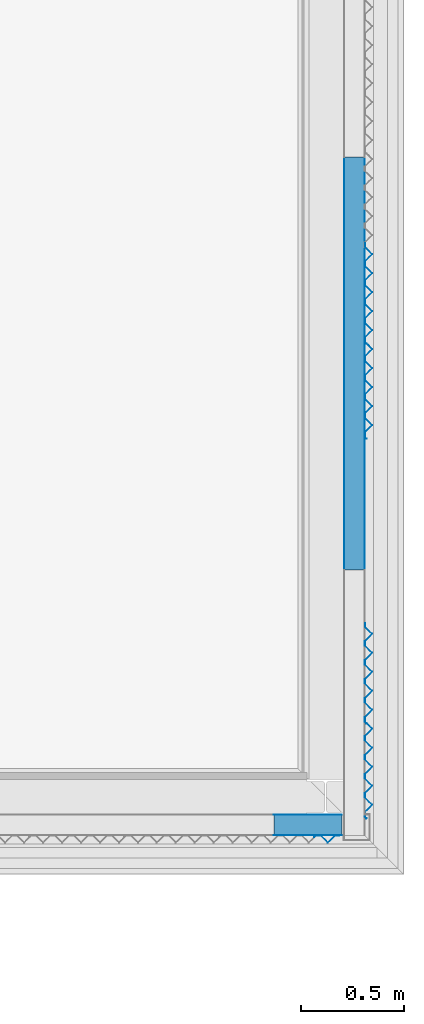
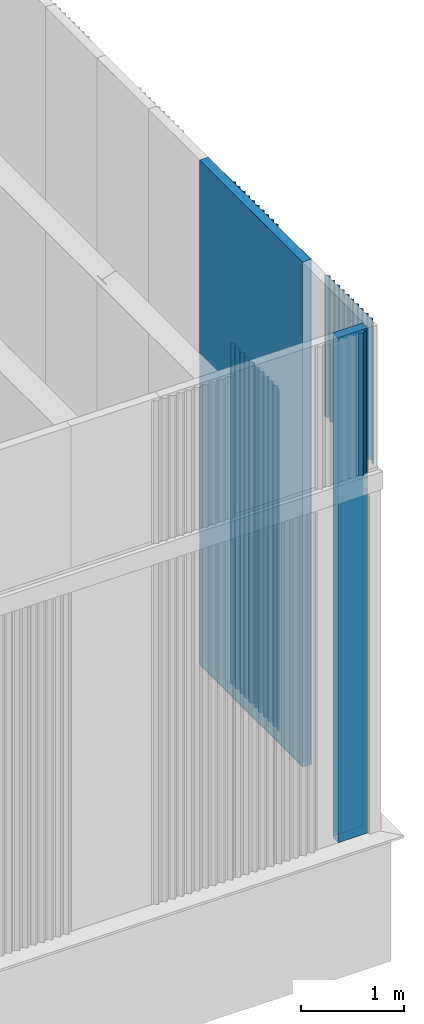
# One storey, part 102 of 338: 13 building element parts, 6 elements without a shape of their own.
"""IFC2X3 building model written with IfcOpenShell, lengths in millimetres."""

from ifc_helpers import new_model, entity, si_unit, converted_unit, derived_unit, money_unit, direction, frame, origin_with_axes, place, context, subcontext, project, spatial, faceted_brep, material, type_object, element, aggregate, save


model = new_model("IFC2X3")

# Units and contexts
model_context = context("Model", 3, precision=0.01, world=origin_with_axes(), true_north=direction((0.0, 1.0)))
plan_context = context("Plan", 3, precision=0.01, world=origin_with_axes(), true_north=direction((0.0, 1.0)))
body_context = subcontext(model_context, "Body", "Model", "MODEL_VIEW")
ifc_project = project(units=[si_unit("LENGTHUNIT", "METRE", prefix="MILLI"), si_unit("AREAUNIT", "SQUARE_METRE"), si_unit("VOLUMEUNIT", "CUBIC_METRE"), converted_unit("PLANEANGLEUNIT", "DEGREE", entity("IfcPlaneAngleMeasure", 0.0174532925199), si_unit("PLANEANGLEUNIT", "RADIAN"), dimensions=[0, 0, 0, 0, 0, 0, 0]), money_unit("EUR"), converted_unit("TIMEUNIT", "Year", entity("IfcTimeMeasure", 31556926.0), si_unit("TIMEUNIT", "SECOND"), dimensions=[0, 0, 1, 0, 0, 0, 0]), si_unit("MASSUNIT", "GRAM", prefix="KILO"), si_unit("THERMODYNAMICTEMPERATUREUNIT", "DEGREE_CELSIUS"), si_unit("LUMINOUSINTENSITYUNIT", "LUMEN"), si_unit("ENERGYUNIT", "JOULE", prefix="MEGA"), derived_unit("THERMALCONDUCTANCEUNIT", [(si_unit("POWERUNIT", "WATT"), 1), (si_unit("LENGTHUNIT", "METRE"), -1), (si_unit("THERMODYNAMICTEMPERATUREUNIT", "KELVIN"), -1)]), derived_unit("SPECIFICHEATCAPACITYUNIT", [(si_unit("ENERGYUNIT", "JOULE"), 1), (si_unit("MASSUNIT", "GRAM", prefix="KILO"), -1), (si_unit("THERMODYNAMICTEMPERATUREUNIT", "KELVIN"), -1)]), derived_unit("MASSDENSITYUNIT", [(si_unit("MASSUNIT", "GRAM", prefix="KILO"), 1), (si_unit("VOLUMEUNIT", "CUBIC_METRE"), -1)])], contexts=[model_context, plan_context])

# Site, building, storey
site_placement = place(None, origin_with_axes())
site = spatial("IfcSite", under=ifc_project, at=site_placement, Name="Fortuinstraat Woensdrecht", CompositionType="ELEMENT")
building_placement = place(site_placement, origin_with_axes())
building = spatial("IfcBuilding", under=site, at=building_placement, Name="IKC Fortuna", CompositionType="ELEMENT")
storey_placement = place(building_placement, origin_with_axes())
storey = spatial("IfcBuildingStorey", under=building, at=storey_placement, Name="00 begane grond", CompositionType="ELEMENT", Elevation=0.0)

# Wall, building element parts
wall_type = type_object("IfcWallType", Name="21 sandwich 100", PredefinedType="NOTDEFINED")
wall_1_placement = place(storey_placement, frame((59433.4270571, 24181.3126832, 1000.0), z_axis=(0.0, 0.0, 1.0), x_axis=(0.0, -1.0, 0.0)))
wall_1 = element("IfcWall", 1, at=wall_1_placement, inside=storey, type_object=wall_type, Name="21_Wand_sandwichplaat")
ifc_material_1 = material(Name="Metaal - Aluminium")
building_element_part_1_placement = place(wall_1_placement, origin_with_axes())
building_element_part_1 = element("IfcBuildingElementPart", 2, at=building_element_part_1_placement, material=ifc_material_1, Name="Metaal - Aluminium", context=body_context, shape_type="Brep", body=[
    faceted_brep([(0.0, 99.0, 6000.0), (2000.0, 99.0, 6000.0), (2000.0, 100.0, 6000.0), (0.0, 100.0, 6000.0), (0.0, 99.0, 0.0), (2000.0, 99.0, 0.0), (2000.0, 100.0, 0.0), (0.0, 100.0, 0.0)], [[[0, 1, 2, 3]], [[4, 5, 1, 0]], [[2, 1, 5, 6]], [[3, 2, 6, 7]], [[4, 0, 3, 7]], [[7, 6, 5, 4]]]),
])
ifc_material_2 = material(Name="Isolatie - Kunststof hard")
building_element_part_2_placement = place(wall_1_placement, origin_with_axes())
building_element_part_2 = element("IfcBuildingElementPart", 3, at=building_element_part_2_placement, material=ifc_material_2, Name="Isolatie - Kunststof hard", context=body_context, shape_type="Brep", body=[
    faceted_brep([(2000.0, 0.999999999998, 6000.0), (2000.0, 99.0, 6000.0), (0.0, 99.0, 6000.0), (0.0, 0.999999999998, 6000.0), (2000.0, 0.999999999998, 0.0), (2000.0, 99.0, 0.0), (0.0, 99.0, 0.0), (0.0, 0.999999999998, 0.0)], [[[0, 1, 2, 3]], [[0, 4, 5, 1]], [[1, 5, 6, 2]], [[3, 2, 6, 7]], [[4, 0, 3, 7]], [[5, 4, 7, 6]]]),
])
building_element_part_3_placement = place(wall_1_placement, origin_with_axes())
building_element_part_3 = element("IfcBuildingElementPart", 4, at=building_element_part_3_placement, material=ifc_material_1, Name="Metaal - Aluminium", context=body_context, shape_type="Brep", body=[
    faceted_brep([(2000.0, 0.0, 6000.0), (0.0, 0.0, 6000.0), (0.0, 6.8709482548e-08, 18.9263474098), (2000.0, 6.34798880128e-08, 18.9263474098), (2000.0, 0.999999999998, 6000.0), (0.0, 0.999999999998, 6000.0), (0.0, 0.999999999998, 18.9261694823), (2000.0, 0.999999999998, 18.9261694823)], [[[0, 1, 2, 3]], [[1, 0, 4, 5]], [[2, 1, 5, 6]], [[3, 2, 6, 7]], [[0, 3, 7, 4]], [[5, 4, 7, 6]]]),
])
aggregate(wall_1, [building_element_part_1, building_element_part_2, building_element_part_3])

wall_2_placement = place(storey_placement, frame((59422.4270571, 20896.2966283, 1000.0), z_axis=(0.0, 0.0, 1.0), x_axis=(-1.0, 0.0, 0.0)))
wall_2 = element("IfcWall", 5, at=wall_2_placement, inside=storey, type_object=wall_type, Name="21_Wand_sandwichplaat")
building_element_part_4_placement = place(wall_2_placement, origin_with_axes())
building_element_part_4 = element("IfcBuildingElementPart", 6, at=building_element_part_4_placement, material=ifc_material_1, Name="Metaal - Aluminium", context=body_context, shape_type="Brep", body=[
    faceted_brep([(0.0, -1.0, 6000.0), (329.013877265, -1.0, 6000.0), (329.013877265, 0.0, 6000.0), (0.0, 0.0, 6000.0), (0.0, -1.0, 0.0), (329.013877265, -1.0, 0.0), (329.013877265, 0.0, 0.0), (0.0, 0.0, 0.0)], [[[0, 1, 2, 3]], [[4, 5, 1, 0]], [[2, 1, 5, 6]], [[3, 2, 6, 7]], [[4, 0, 3, 7]], [[7, 6, 5, 4]]]),
])
building_element_part_5_placement = place(wall_2_placement, origin_with_axes())
building_element_part_5 = element("IfcBuildingElementPart", 7, at=building_element_part_5_placement, material=ifc_material_2, Name="Isolatie - Kunststof hard", context=body_context, shape_type="Brep", body=[
    faceted_brep([(329.013877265, -99.0, 6000.0), (329.013877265, -1.0, 6000.0), (0.0, -1.0, 6000.0), (0.0, -99.0, 6000.0), (329.013877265, -99.0, 0.0), (329.013877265, -1.0, 0.0), (0.0, -1.0, 0.0), (0.0, -99.0, 0.0)], [[[0, 1, 2, 3]], [[0, 4, 5, 1]], [[1, 5, 6, 2]], [[3, 2, 6, 7]], [[4, 0, 3, 7]], [[5, 4, 7, 6]]]),
])
building_element_part_6_placement = place(wall_2_placement, origin_with_axes())
building_element_part_6 = element("IfcBuildingElementPart", 8, at=building_element_part_6_placement, material=ifc_material_1, Name="Metaal - Aluminium", context=body_context, shape_type="Brep", body=[
    faceted_brep([(329.013877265, -99.0, 6000.0), (329.013877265, -99.000000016, 18.9261694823), (0.0, -99.000000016, 18.9261694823), (0.0, -99.0, 6000.0), (329.013877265, -100.0, 18.9263474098), (329.013877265, -100.0, 6000.0), (0.0, -100.0, 18.9263474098), (0.0, -100.0, 6000.0)], [[[0, 1, 2, 3]], [[4, 1, 0, 5]], [[1, 4, 6, 2]], [[3, 2, 6, 7]], [[5, 0, 3, 7]], [[4, 5, 7, 6]]]),
])
aggregate(wall_2, [building_element_part_4, building_element_part_5, building_element_part_6])

# Proxy, building element parts
building_element_proxy_type_1 = type_object("IfcBuildingElementProxyType", Name="21 Sandwich custom pyramid 946 x 37", PredefinedType="NOTDEFINED")
proxy_1_placement = place(storey_placement, frame((59533.4270571, 23763.6060069, 1000.0), z_axis=(0.0, 0.0, 1.0), x_axis=(0.0, -1.0, 0.0)))
proxy_1 = element("IfcBuildingElementProxy", 9, at=proxy_1_placement, inside=storey, type_object=building_element_proxy_type_1, Name="41_Generieke bekleding & afwerking buiten_sandwich custom pyramid")
building_element_part_7_placement = place(proxy_1_placement, origin_with_axes())
building_element_part_7 = element("IfcBuildingElementPart", 10, at=building_element_part_7_placement, material=ifc_material_1, Name="Metaal - Aluminium", context=body_context, shape_type="Brep", body=[
    faceted_brep([(0.0, 2.39999686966, 0.0), (0.0, 1.20000548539, 0.0), (0.0, 1.20000548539, 4060.85690076), (0.0, 2.39999686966, 4060.85690076), (16.7470988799, 2.39999686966, 0.0), (52.0000026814, 36.6736482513, 0.0), (88.487191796, 1.20000548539, 0.0), (107.51282048, 1.20000548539, 0.0), (143.999995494, 36.6736482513, 0.0), (180.487184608, 1.20000548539, 0.0), (199.512813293, 1.20000548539, 0.0), (236.000002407, 36.6736482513, 0.0), (272.487191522, 1.20000548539, 0.0), (291.512820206, 1.20000548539, 0.0), (327.99999522, 36.6736482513, 0.0), (364.487184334, 1.20000548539, 0.0), (383.512813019, 1.20000548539, 0.0), (420.000002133, 36.6736482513, 0.0), (456.487191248, 1.20000548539, 0.0), (460.000006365, 1.20000548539, 0.0), (477.23428491, 1.20000548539, 0.0), (485.472879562, 9.20975302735, 0.0), (486.309372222, 8.34935896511, 0.0), (477.721464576, 0.0, 0.0), (455.999997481, 0.0, 0.0), (420.000002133, 35.0000001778, 0.0), (384.000006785, 0.0, 0.0), (364.000004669, 0.0, 0.0), (327.99999522, 35.0000001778, 0.0), (291.999999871, 0.0, 0.0), (271.999997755, 0.0, 0.0), (236.000002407, 35.0000001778, 0.0), (199.999992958, 0.0, 0.0), (180.000004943, 0.0, 0.0), (143.999995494, 35.0000001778, 0.0), (108.000000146, 0.0, 0.0), (87.9999980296, 0.0, 0.0), (52.0000026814, 35.0000001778, 0.0), (17.2342926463, 1.20000548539, 0.0), (17.2342926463, 1.20000548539, 4060.85690076), (52.0000026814, 35.0000001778, 4060.85690076), (87.9999980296, 0.0, 4060.85690076), (108.000000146, 0.0, 4060.85690076), (143.999995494, 35.0000001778, 4060.85690076), (180.000004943, 0.0, 4060.85690076), (199.999992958, 0.0, 4060.85690076), (236.000002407, 35.0000001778, 4060.85690076), (271.999997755, 0.0, 4060.85690076), (291.999999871, 0.0, 4060.85690076), (327.99999522, 35.0000001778, 4060.85690076), (364.000004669, 0.0, 4060.85690076), (384.000006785, 0.0, 4060.85690076), (420.000002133, 35.0000001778, 4060.85690076), (455.999997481, 0.0, 4060.85690076), (477.721464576, 0.0, 4060.85690076), (486.309372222, 8.34935896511, 4060.85690076), (485.472879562, 9.20975302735, 4060.85690076), (477.23428491, 1.20000548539, 4060.85690076), (460.000006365, 1.20000548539, 4060.85690076), (456.487191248, 1.20000548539, 4060.85690076), (420.000002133, 36.6736482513, 4060.85690076), (383.512813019, 1.20000548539, 4060.85690076), (364.487184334, 1.20000548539, 4060.85690076), (327.99999522, 36.6736482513, 4060.85690076), (291.512820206, 1.20000548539, 4060.85690076), (272.487191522, 1.20000548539, 4060.85690076), (236.000002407, 36.6736482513, 4060.85690076), (199.512813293, 1.20000548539, 4060.85690076), (180.487184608, 1.20000548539, 4060.85690076), (143.999995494, 36.6736482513, 4060.85690076), (107.51282048, 1.20000548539, 4060.85690076), (88.487191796, 1.20000548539, 4060.85690076), (52.0000026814, 36.6736482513, 4060.85690076), (16.7470988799, 2.39999686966, 4060.85690076)], [[[0, 1, 2, 3]], [[0, 4, 5, 6, 7, 8, 9, 10, 11, 12, 13, 14, 15, 16, 17, 18, 19, 20, 21, 22, 23, 24, 25, 26, 27, 28, 29, 30, 31, 32, 33, 34, 35, 36, 37, 38, 1]], [[1, 38, 39, 2]], [[3, 2, 39, 40, 41, 42, 43, 44, 45, 46, 47, 48, 49, 50, 51, 52, 53, 54, 55, 56, 57, 58, 59, 60, 61, 62, 63, 64, 65, 66, 67, 68, 69, 70, 71, 72, 73]], [[4, 0, 3, 73]], [[5, 4, 73, 72]], [[6, 5, 72, 71]], [[7, 6, 71, 70]], [[8, 7, 70, 69]], [[9, 8, 69, 68]], [[10, 9, 68, 67]], [[11, 10, 67, 66]], [[12, 11, 66, 65]], [[13, 12, 65, 64]], [[14, 13, 64, 63]], [[15, 14, 63, 62]], [[16, 15, 62, 61]], [[17, 16, 61, 60]], [[18, 17, 60, 59]], [[19, 18, 59, 58]], [[20, 19, 58, 57]], [[21, 20, 57, 56]], [[22, 21, 56, 55]], [[23, 22, 55, 54]], [[24, 23, 54, 53]], [[25, 24, 53, 52]], [[26, 25, 52, 51]], [[27, 26, 51, 50]], [[28, 27, 50, 49]], [[29, 28, 49, 48]], [[30, 29, 48, 47]], [[31, 30, 47, 46]], [[32, 31, 46, 45]], [[33, 32, 45, 44]], [[34, 33, 44, 43]], [[35, 34, 43, 42]], [[36, 35, 42, 41]], [[37, 36, 41, 40]], [[38, 37, 40, 39]]]),
])
building_element_part_8_placement = place(proxy_1_placement, origin_with_axes())
building_element_part_8 = element("IfcBuildingElementPart", 11, at=building_element_part_8_placement, material=ifc_material_1, Name="Metaal - Aluminium", context=body_context, shape_type="Brep", body=[
    faceted_brep([(460.0, 1.2, 0.0), (477.234285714, 1.2, 0.0), (477.234285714, 1.2, 4060.85690076), (460.0, 1.2, 4060.85690076), (460.0, 2.4, 0.0), (476.747100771, 2.4, 0.0), (512.0, 36.6736520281, 0.0), (548.487184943, 1.2, 0.0), (567.512815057, 1.2, 0.0), (604.0, 36.6736520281, 0.0), (640.487184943, 1.2, 0.0), (659.512815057, 1.2, 0.0), (696.0, 36.6736520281, 0.0), (732.487184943, 1.2, 0.0), (751.512815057, 1.2, 0.0), (788.0, 36.6736520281, 0.0), (824.487184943, 1.2, 0.0), (843.512815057, 1.2, 0.0), (880.0, 36.6736520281, 0.0), (916.487184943, 1.2, 0.0), (937.234285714, 1.2, 0.0), (945.472884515, 9.20974883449, 0.0), (946.309378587, 8.34935493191, 0.0), (937.721470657, 0.0, 0.0), (916.0, 0.0, 0.0), (880.0, 35.0, 0.0), (844.0, 0.0, 0.0), (824.0, 0.0, 0.0), (788.0, 35.0, 0.0), (752.0, 0.0, 0.0), (732.0, 0.0, 0.0), (696.0, 35.0, 0.0), (660.0, 0.0, 0.0), (640.0, 0.0, 0.0), (604.0, 35.0, 0.0), (568.0, 0.0, 0.0), (548.0, 0.0, 0.0), (512.0, 35.0, 0.0), (485.472879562, 9.20975302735, 0.0), (485.472879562, 9.20975302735, 4060.85690076), (512.0, 35.0, 4060.85690076), (548.0, 0.0, 4060.85690076), (568.0, 0.0, 4060.85690076), (604.0, 35.0, 4060.85690076), (640.0, 0.0, 4060.85690076), (660.0, 0.0, 4060.85690076), (696.0, 35.0, 4060.85690076), (732.0, 0.0, 4060.85690076), (752.0, 0.0, 4060.85690076), (788.0, 35.0, 4060.85690076), (824.0, 0.0, 4060.85690076), (844.0, 0.0, 4060.85690076), (880.0, 35.0, 4060.85690076), (916.0, 0.0, 4060.85690076), (937.721470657, 0.0, 4060.85690076), (946.309378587, 8.34935493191, 4060.85690076), (945.472884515, 9.20974883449, 4060.85690076), (937.234285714, 1.2, 4060.85690076), (916.487184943, 1.2, 4060.85690076), (880.0, 36.6736520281, 4060.85690076), (843.512815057, 1.2, 4060.85690076), (824.487184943, 1.2, 4060.85690076), (788.0, 36.6736520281, 4060.85690076), (751.512815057, 1.2, 4060.85690076), (732.487184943, 1.2, 4060.85690076), (696.0, 36.6736520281, 4060.85690076), (659.512815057, 1.2, 4060.85690076), (640.487184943, 1.2, 4060.85690076), (604.0, 36.6736520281, 4060.85690076), (567.512815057, 1.2, 4060.85690076), (548.487184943, 1.2, 4060.85690076), (512.0, 36.6736520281, 4060.85690076), (476.747100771, 2.4, 4060.85690076), (460.0, 2.4, 4060.85690076)], [[[0, 1, 2, 3]], [[0, 4, 5, 6, 7, 8, 9, 10, 11, 12, 13, 14, 15, 16, 17, 18, 19, 20, 21, 22, 23, 24, 25, 26, 27, 28, 29, 30, 31, 32, 33, 34, 35, 36, 37, 38, 1]], [[1, 38, 39, 2]], [[3, 2, 39, 40, 41, 42, 43, 44, 45, 46, 47, 48, 49, 50, 51, 52, 53, 54, 55, 56, 57, 58, 59, 60, 61, 62, 63, 64, 65, 66, 67, 68, 69, 70, 71, 72, 73]], [[4, 0, 3, 73]], [[5, 4, 73, 72]], [[6, 5, 72, 71]], [[7, 6, 71, 70]], [[8, 7, 70, 69]], [[9, 8, 69, 68]], [[10, 9, 68, 67]], [[11, 10, 67, 66]], [[12, 11, 66, 65]], [[13, 12, 65, 64]], [[14, 13, 64, 63]], [[15, 14, 63, 62]], [[16, 15, 62, 61]], [[17, 16, 61, 60]], [[18, 17, 60, 59]], [[19, 18, 59, 58]], [[20, 19, 58, 57]], [[21, 20, 57, 56]], [[22, 21, 56, 55]], [[23, 22, 55, 54]], [[24, 23, 54, 53]], [[25, 24, 53, 52]], [[26, 25, 52, 51]], [[27, 26, 51, 50]], [[28, 27, 50, 49]], [[29, 28, 49, 48]], [[30, 29, 48, 47]], [[31, 30, 47, 46]], [[32, 31, 46, 45]], [[33, 32, 45, 44]], [[34, 33, 44, 43]], [[35, 34, 43, 42]], [[36, 35, 42, 41]], [[37, 36, 41, 40]], [[38, 37, 40, 39]]]),
])
aggregate(proxy_1, [building_element_part_7, building_element_part_8])

proxy_2_placement = place(storey_placement, frame((59533.4270571, 23763.6060069, 5289.99999237), z_axis=(0.0, 0.0, 1.0), x_axis=(0.0, -1.0, 0.0)))
proxy_2 = element("IfcBuildingElementProxy", 12, at=proxy_2_placement, inside=storey, type_object=building_element_proxy_type_1, Name="41_Generieke bekleding & afwerking buiten_sandwich custom pyramid")
building_element_part_9_placement = place(proxy_2_placement, origin_with_axes())
building_element_part_9 = element("IfcBuildingElementPart", 13, at=building_element_part_9_placement, material=ifc_material_1, Name="Metaal - Aluminium", context=body_context, shape_type="Brep", body=[
    faceted_brep([(0.0, 2.39999686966, 0.0), (0.0, 1.20000548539, 0.0), (0.0, 1.20000548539, 1690.00000566), (0.0, 2.39999686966, 1690.00000566), (16.7470988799, 2.39999686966, 0.0), (52.0000026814, 36.6736482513, 0.0), (88.487191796, 1.20000548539, 0.0), (107.51282048, 1.20000548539, 0.0), (143.999995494, 36.6736482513, 0.0), (180.487184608, 1.20000548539, 0.0), (199.512813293, 1.20000548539, 0.0), (236.000002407, 36.6736482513, 0.0), (272.487191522, 1.20000548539, 0.0), (291.512820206, 1.20000548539, 0.0), (327.99999522, 36.6736482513, 0.0), (364.487184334, 1.20000548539, 0.0), (383.512813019, 1.20000548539, 0.0), (420.000002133, 36.6736482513, 0.0), (456.487191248, 1.20000548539, 0.0), (460.000006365, 1.20000548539, 0.0), (477.23428491, 1.20000548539, 0.0), (485.472879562, 9.20975302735, 0.0), (486.309372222, 8.34935896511, 0.0), (477.721464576, 0.0, 0.0), (455.999997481, 0.0, 0.0), (420.000002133, 35.0000001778, 0.0), (384.000006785, 0.0, 0.0), (364.000004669, 0.0, 0.0), (327.99999522, 35.0000001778, 0.0), (291.999999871, 0.0, 0.0), (271.999997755, 0.0, 0.0), (236.000002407, 35.0000001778, 0.0), (199.999992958, 0.0, 0.0), (180.000004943, 0.0, 0.0), (143.999995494, 35.0000001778, 0.0), (108.000000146, 0.0, 0.0), (87.9999980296, 0.0, 0.0), (52.0000026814, 35.0000001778, 0.0), (17.2342926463, 1.20000548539, 0.0), (17.2342926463, 1.20000548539, 1690.00000566), (52.0000026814, 35.0000001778, 1690.00000566), (87.9999980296, 0.0, 1690.00000566), (108.000000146, 0.0, 1690.00000566), (143.999995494, 35.0000001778, 1690.00000566), (180.000004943, 0.0, 1690.00000566), (199.999992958, 0.0, 1690.00000566), (236.000002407, 35.0000001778, 1690.00000566), (271.999997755, 0.0, 1690.00000566), (291.999999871, 0.0, 1690.00000566), (327.99999522, 35.0000001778, 1690.00000566), (364.000004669, 0.0, 1690.00000566), (384.000006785, 0.0, 1690.00000566), (420.000002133, 35.0000001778, 1690.00000566), (455.999997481, 0.0, 1690.00000566), (477.721464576, 0.0, 1690.00000566), (486.309372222, 8.34935896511, 1690.00000566), (485.472879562, 9.20975302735, 1690.00000566), (477.23428491, 1.20000548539, 1690.00000566), (460.000006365, 1.20000548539, 1690.00000566), (456.487191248, 1.20000548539, 1690.00000566), (420.000002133, 36.6736482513, 1690.00000566), (383.512813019, 1.20000548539, 1690.00000566), (364.487184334, 1.20000548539, 1690.00000566), (327.99999522, 36.6736482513, 1690.00000566), (291.512820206, 1.20000548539, 1690.00000566), (272.487191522, 1.20000548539, 1690.00000566), (236.000002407, 36.6736482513, 1690.00000566), (199.512813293, 1.20000548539, 1690.00000566), (180.487184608, 1.20000548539, 1690.00000566), (143.999995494, 36.6736482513, 1690.00000566), (107.51282048, 1.20000548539, 1690.00000566), (88.487191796, 1.20000548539, 1690.00000566), (52.0000026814, 36.6736482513, 1690.00000566), (16.7470988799, 2.39999686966, 1690.00000566)], [[[0, 1, 2, 3]], [[0, 4, 5, 6, 7, 8, 9, 10, 11, 12, 13, 14, 15, 16, 17, 18, 19, 20, 21, 22, 23, 24, 25, 26, 27, 28, 29, 30, 31, 32, 33, 34, 35, 36, 37, 38, 1]], [[1, 38, 39, 2]], [[3, 2, 39, 40, 41, 42, 43, 44, 45, 46, 47, 48, 49, 50, 51, 52, 53, 54, 55, 56, 57, 58, 59, 60, 61, 62, 63, 64, 65, 66, 67, 68, 69, 70, 71, 72, 73]], [[4, 0, 3, 73]], [[5, 4, 73, 72]], [[6, 5, 72, 71]], [[7, 6, 71, 70]], [[8, 7, 70, 69]], [[9, 8, 69, 68]], [[10, 9, 68, 67]], [[11, 10, 67, 66]], [[12, 11, 66, 65]], [[13, 12, 65, 64]], [[14, 13, 64, 63]], [[15, 14, 63, 62]], [[16, 15, 62, 61]], [[17, 16, 61, 60]], [[18, 17, 60, 59]], [[19, 18, 59, 58]], [[20, 19, 58, 57]], [[21, 20, 57, 56]], [[22, 21, 56, 55]], [[23, 22, 55, 54]], [[24, 23, 54, 53]], [[25, 24, 53, 52]], [[26, 25, 52, 51]], [[27, 26, 51, 50]], [[28, 27, 50, 49]], [[29, 28, 49, 48]], [[30, 29, 48, 47]], [[31, 30, 47, 46]], [[32, 31, 46, 45]], [[33, 32, 45, 44]], [[34, 33, 44, 43]], [[35, 34, 43, 42]], [[36, 35, 42, 41]], [[37, 36, 41, 40]], [[38, 37, 40, 39]]]),
])
building_element_part_10_placement = place(proxy_2_placement, origin_with_axes())
building_element_part_10 = element("IfcBuildingElementPart", 14, at=building_element_part_10_placement, material=ifc_material_1, Name="Metaal - Aluminium", context=body_context, shape_type="Brep", body=[
    faceted_brep([(460.0, 1.2, 0.0), (477.234285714, 1.2, 0.0), (477.234285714, 1.2, 1690.00000566), (460.0, 1.2, 1690.00000566), (460.0, 2.4, 0.0), (476.747100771, 2.4, 0.0), (512.0, 36.6736520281, 0.0), (548.487184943, 1.2, 0.0), (567.512815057, 1.2, 0.0), (604.0, 36.6736520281, 0.0), (640.487184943, 1.2, 0.0), (659.512815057, 1.2, 0.0), (696.0, 36.6736520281, 0.0), (732.487184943, 1.2, 0.0), (751.512815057, 1.2, 0.0), (788.0, 36.6736520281, 0.0), (824.487184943, 1.2, 0.0), (843.512815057, 1.2, 0.0), (880.0, 36.6736520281, 0.0), (916.487184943, 1.2, 0.0), (937.234285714, 1.2, 0.0), (945.472884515, 9.20974883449, 0.0), (946.309378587, 8.34935493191, 0.0), (937.721470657, 0.0, 0.0), (916.0, 0.0, 0.0), (880.0, 35.0, 0.0), (844.0, 0.0, 0.0), (824.0, 0.0, 0.0), (788.0, 35.0, 0.0), (752.0, 0.0, 0.0), (732.0, 0.0, 0.0), (696.0, 35.0, 0.0), (660.0, 0.0, 0.0), (640.0, 0.0, 0.0), (604.0, 35.0, 0.0), (568.0, 0.0, 0.0), (548.0, 0.0, 0.0), (512.0, 35.0, 0.0), (485.472879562, 9.20975302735, 0.0), (485.472879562, 9.20975302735, 1690.00000566), (512.0, 35.0, 1690.00000566), (548.0, 0.0, 1690.00000566), (568.0, 0.0, 1690.00000566), (604.0, 35.0, 1690.00000566), (640.0, 0.0, 1690.00000566), (660.0, 0.0, 1690.00000566), (696.0, 35.0, 1690.00000566), (732.0, 0.0, 1690.00000566), (752.0, 0.0, 1690.00000566), (788.0, 35.0, 1690.00000566), (824.0, 0.0, 1690.00000566), (844.0, 0.0, 1690.00000566), (880.0, 35.0, 1690.00000566), (916.0, 0.0, 1690.00000566), (937.721470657, 0.0, 1690.00000566), (946.309378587, 8.34935493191, 1690.00000566), (945.472884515, 9.20974883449, 1690.00000566), (937.234285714, 1.2, 1690.00000566), (916.487184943, 1.2, 1690.00000566), (880.0, 36.6736520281, 1690.00000566), (843.512815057, 1.2, 1690.00000566), (824.487184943, 1.2, 1690.00000566), (788.0, 36.6736520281, 1690.00000566), (751.512815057, 1.2, 1690.00000566), (732.487184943, 1.2, 1690.00000566), (696.0, 36.6736520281, 1690.00000566), (659.512815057, 1.2, 1690.00000566), (640.487184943, 1.2, 1690.00000566), (604.0, 36.6736520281, 1690.00000566), (567.512815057, 1.2, 1690.00000566), (548.487184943, 1.2, 1690.00000566), (512.0, 36.6736520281, 1690.00000566), (476.747100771, 2.4, 1690.00000566), (460.0, 2.4, 1690.00000566)], [[[0, 1, 2, 3]], [[0, 4, 5, 6, 7, 8, 9, 10, 11, 12, 13, 14, 15, 16, 17, 18, 19, 20, 21, 22, 23, 24, 25, 26, 27, 28, 29, 30, 31, 32, 33, 34, 35, 36, 37, 38, 1]], [[1, 38, 39, 2]], [[3, 2, 39, 40, 41, 42, 43, 44, 45, 46, 47, 48, 49, 50, 51, 52, 53, 54, 55, 56, 57, 58, 59, 60, 61, 62, 63, 64, 65, 66, 67, 68, 69, 70, 71, 72, 73]], [[4, 0, 3, 73]], [[5, 4, 73, 72]], [[6, 5, 72, 71]], [[7, 6, 71, 70]], [[8, 7, 70, 69]], [[9, 8, 69, 68]], [[10, 9, 68, 67]], [[11, 10, 67, 66]], [[12, 11, 66, 65]], [[13, 12, 65, 64]], [[14, 13, 64, 63]], [[15, 14, 63, 62]], [[16, 15, 62, 61]], [[17, 16, 61, 60]], [[18, 17, 60, 59]], [[19, 18, 59, 58]], [[20, 19, 58, 57]], [[21, 20, 57, 56]], [[22, 21, 56, 55]], [[23, 22, 55, 54]], [[24, 23, 54, 53]], [[25, 24, 53, 52]], [[26, 25, 52, 51]], [[27, 26, 51, 50]], [[28, 27, 50, 49]], [[29, 28, 49, 48]], [[30, 29, 48, 47]], [[31, 30, 47, 46]], [[32, 31, 46, 45]], [[33, 32, 45, 44]], [[34, 33, 44, 43]], [[35, 34, 43, 42]], [[36, 35, 42, 41]], [[37, 36, 41, 40]], [[38, 37, 40, 39]]]),
])
aggregate(proxy_2, [building_element_part_9, building_element_part_10])

proxy_3_placement = place(storey_placement, frame((59533.4270571, 21923.6060069, 5289.99999237), z_axis=(0.0, 0.0, 1.0), x_axis=(0.0, -1.0, 0.0)))
proxy_3 = element("IfcBuildingElementProxy", 15, at=proxy_3_placement, inside=storey, type_object=building_element_proxy_type_1, Name="41_Generieke bekleding & afwerking buiten_sandwich custom pyramid")
building_element_part_11_placement = place(proxy_3_placement, origin_with_axes())
building_element_part_11 = element("IfcBuildingElementPart", 16, at=building_element_part_11_placement, material=ifc_material_1, Name="Metaal - Aluminium", context=body_context, shape_type="Brep", body=[
    faceted_brep([(0.0, 2.39999686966, 0.0), (0.0, 1.20000548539, 0.0), (0.0, 1.20000548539, 1690.00000566), (0.0, 2.39999686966, 1690.00000566), (16.7470988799, 2.39999686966, 0.0), (52.0000026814, 36.6736482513, 0.0), (88.487191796, 1.20000548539, 0.0), (107.51282048, 1.20000548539, 0.0), (143.999995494, 36.6736482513, 0.0), (180.487184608, 1.20000548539, 0.0), (199.512813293, 1.20000548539, 0.0), (236.000002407, 36.6736482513, 0.0), (272.487191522, 1.20000548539, 0.0), (291.512820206, 1.20000548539, 0.0), (327.99999522, 36.6736482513, 0.0), (364.487184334, 1.20000548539, 0.0), (383.512813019, 1.20000548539, 0.0), (420.000002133, 36.6736482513, 0.0), (456.487191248, 1.20000548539, 0.0), (460.000006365, 1.20000548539, 0.0), (477.23428491, 1.20000548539, 0.0), (485.472879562, 9.20975302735, 0.0), (486.309372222, 8.34935896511, 0.0), (477.721464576, 0.0, 0.0), (455.999997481, 0.0, 0.0), (420.000002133, 35.0000001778, 0.0), (384.000006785, 0.0, 0.0), (364.000004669, 0.0, 0.0), (327.99999522, 35.0000001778, 0.0), (291.999999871, 0.0, 0.0), (271.999997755, 0.0, 0.0), (236.000002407, 35.0000001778, 0.0), (199.999992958, 0.0, 0.0), (180.000004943, 0.0, 0.0), (143.999995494, 35.0000001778, 0.0), (108.000000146, 0.0, 0.0), (87.9999980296, 0.0, 0.0), (52.0000026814, 35.0000001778, 0.0), (17.2342926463, 1.20000548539, 0.0), (17.2342926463, 1.20000548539, 1690.00000566), (52.0000026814, 35.0000001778, 1690.00000566), (87.9999980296, 0.0, 1690.00000566), (108.000000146, 0.0, 1690.00000566), (143.999995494, 35.0000001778, 1690.00000566), (180.000004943, 0.0, 1690.00000566), (199.999992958, 0.0, 1690.00000566), (236.000002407, 35.0000001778, 1690.00000566), (271.999997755, 0.0, 1690.00000566), (291.999999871, 0.0, 1690.00000566), (327.99999522, 35.0000001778, 1690.00000566), (364.000004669, 0.0, 1690.00000566), (384.000006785, 0.0, 1690.00000566), (420.000002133, 35.0000001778, 1690.00000566), (455.999997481, 0.0, 1690.00000566), (477.721464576, 0.0, 1690.00000566), (486.309372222, 8.34935896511, 1690.00000566), (485.472879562, 9.20975302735, 1690.00000566), (477.23428491, 1.20000548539, 1690.00000566), (460.000006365, 1.20000548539, 1690.00000566), (456.487191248, 1.20000548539, 1690.00000566), (420.000002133, 36.6736482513, 1690.00000566), (383.512813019, 1.20000548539, 1690.00000566), (364.487184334, 1.20000548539, 1690.00000566), (327.99999522, 36.6736482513, 1690.00000566), (291.512820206, 1.20000548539, 1690.00000566), (272.487191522, 1.20000548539, 1690.00000566), (236.000002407, 36.6736482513, 1690.00000566), (199.512813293, 1.20000548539, 1690.00000566), (180.487184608, 1.20000548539, 1690.00000566), (143.999995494, 36.6736482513, 1690.00000566), (107.51282048, 1.20000548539, 1690.00000566), (88.487191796, 1.20000548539, 1690.00000566), (52.0000026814, 36.6736482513, 1690.00000566), (16.7470988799, 2.39999686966, 1690.00000566)], [[[0, 1, 2, 3]], [[0, 4, 5, 6, 7, 8, 9, 10, 11, 12, 13, 14, 15, 16, 17, 18, 19, 20, 21, 22, 23, 24, 25, 26, 27, 28, 29, 30, 31, 32, 33, 34, 35, 36, 37, 38, 1]], [[1, 38, 39, 2]], [[3, 2, 39, 40, 41, 42, 43, 44, 45, 46, 47, 48, 49, 50, 51, 52, 53, 54, 55, 56, 57, 58, 59, 60, 61, 62, 63, 64, 65, 66, 67, 68, 69, 70, 71, 72, 73]], [[4, 0, 3, 73]], [[5, 4, 73, 72]], [[6, 5, 72, 71]], [[7, 6, 71, 70]], [[8, 7, 70, 69]], [[9, 8, 69, 68]], [[10, 9, 68, 67]], [[11, 10, 67, 66]], [[12, 11, 66, 65]], [[13, 12, 65, 64]], [[14, 13, 64, 63]], [[15, 14, 63, 62]], [[16, 15, 62, 61]], [[17, 16, 61, 60]], [[18, 17, 60, 59]], [[19, 18, 59, 58]], [[20, 19, 58, 57]], [[21, 20, 57, 56]], [[22, 21, 56, 55]], [[23, 22, 55, 54]], [[24, 23, 54, 53]], [[25, 24, 53, 52]], [[26, 25, 52, 51]], [[27, 26, 51, 50]], [[28, 27, 50, 49]], [[29, 28, 49, 48]], [[30, 29, 48, 47]], [[31, 30, 47, 46]], [[32, 31, 46, 45]], [[33, 32, 45, 44]], [[34, 33, 44, 43]], [[35, 34, 43, 42]], [[36, 35, 42, 41]], [[37, 36, 41, 40]], [[38, 37, 40, 39]]]),
])
building_element_part_12_placement = place(proxy_3_placement, origin_with_axes())
building_element_part_12 = element("IfcBuildingElementPart", 17, at=building_element_part_12_placement, material=ifc_material_1, Name="Metaal - Aluminium", context=body_context, shape_type="Brep", body=[
    faceted_brep([(460.0, 1.2, 0.0), (477.234285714, 1.2, 0.0), (477.234285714, 1.2, 1690.00000566), (460.0, 1.2, 1690.00000566), (460.0, 2.4, 0.0), (476.747100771, 2.4, 0.0), (512.0, 36.6736520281, 0.0), (548.487184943, 1.2, 0.0), (567.512815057, 1.2, 0.0), (604.0, 36.6736520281, 0.0), (640.487184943, 1.2, 0.0), (659.512815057, 1.2, 0.0), (696.0, 36.6736520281, 0.0), (732.487184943, 1.2, 0.0), (751.512815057, 1.2, 0.0), (788.0, 36.6736520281, 0.0), (824.487184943, 1.2, 0.0), (843.512815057, 1.2, 0.0), (880.0, 36.6736520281, 0.0), (916.487184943, 1.2, 0.0), (937.234285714, 1.2, 0.0), (945.472884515, 9.20974883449, 0.0), (946.309378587, 8.34935493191, 0.0), (937.721470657, 0.0, 0.0), (916.0, 0.0, 0.0), (880.0, 35.0, 0.0), (844.0, 0.0, 0.0), (824.0, 0.0, 0.0), (788.0, 35.0, 0.0), (752.0, 0.0, 0.0), (732.0, 0.0, 0.0), (696.0, 35.0, 0.0), (660.0, 0.0, 0.0), (640.0, 0.0, 0.0), (604.0, 35.0, 0.0), (568.0, 0.0, 0.0), (548.0, 0.0, 0.0), (512.0, 35.0, 0.0), (485.472879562, 9.20975302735, 0.0), (485.472879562, 9.20975302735, 1690.00000566), (512.0, 35.0, 1690.00000566), (548.0, 0.0, 1690.00000566), (568.0, 0.0, 1690.00000566), (604.0, 35.0, 1690.00000566), (640.0, 0.0, 1690.00000566), (660.0, 0.0, 1690.00000566), (696.0, 35.0, 1690.00000566), (732.0, 0.0, 1690.00000566), (752.0, 0.0, 1690.00000566), (788.0, 35.0, 1690.00000566), (824.0, 0.0, 1690.00000566), (844.0, 0.0, 1690.00000566), (880.0, 35.0, 1690.00000566), (916.0, 0.0, 1690.00000566), (937.721470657, 0.0, 1690.00000566), (946.309378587, 8.34935493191, 1690.00000566), (945.472884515, 9.20974883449, 1690.00000566), (937.234285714, 1.2, 1690.00000566), (916.487184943, 1.2, 1690.00000566), (880.0, 36.6736520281, 1690.00000566), (843.512815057, 1.2, 1690.00000566), (824.487184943, 1.2, 1690.00000566), (788.0, 36.6736520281, 1690.00000566), (751.512815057, 1.2, 1690.00000566), (732.487184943, 1.2, 1690.00000566), (696.0, 36.6736520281, 1690.00000566), (659.512815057, 1.2, 1690.00000566), (640.487184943, 1.2, 1690.00000566), (604.0, 36.6736520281, 1690.00000566), (567.512815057, 1.2, 1690.00000566), (548.487184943, 1.2, 1690.00000566), (512.0, 36.6736520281, 1690.00000566), (476.747100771, 2.4, 1690.00000566), (460.0, 2.4, 1690.00000566)], [[[0, 1, 2, 3]], [[0, 4, 5, 6, 7, 8, 9, 10, 11, 12, 13, 14, 15, 16, 17, 18, 19, 20, 21, 22, 23, 24, 25, 26, 27, 28, 29, 30, 31, 32, 33, 34, 35, 36, 37, 38, 1]], [[1, 38, 39, 2]], [[3, 2, 39, 40, 41, 42, 43, 44, 45, 46, 47, 48, 49, 50, 51, 52, 53, 54, 55, 56, 57, 58, 59, 60, 61, 62, 63, 64, 65, 66, 67, 68, 69, 70, 71, 72, 73]], [[4, 0, 3, 73]], [[5, 4, 73, 72]], [[6, 5, 72, 71]], [[7, 6, 71, 70]], [[8, 7, 70, 69]], [[9, 8, 69, 68]], [[10, 9, 68, 67]], [[11, 10, 67, 66]], [[12, 11, 66, 65]], [[13, 12, 65, 64]], [[14, 13, 64, 63]], [[15, 14, 63, 62]], [[16, 15, 62, 61]], [[17, 16, 61, 60]], [[18, 17, 60, 59]], [[19, 18, 59, 58]], [[20, 19, 58, 57]], [[21, 20, 57, 56]], [[22, 21, 56, 55]], [[23, 22, 55, 54]], [[24, 23, 54, 53]], [[25, 24, 53, 52]], [[26, 25, 52, 51]], [[27, 26, 51, 50]], [[28, 27, 50, 49]], [[29, 28, 49, 48]], [[30, 29, 48, 47]], [[31, 30, 47, 46]], [[32, 31, 46, 45]], [[33, 32, 45, 44]], [[34, 33, 44, 43]], [[35, 34, 43, 42]], [[36, 35, 42, 41]], [[37, 36, 41, 40]], [[38, 37, 40, 39]]]),
])
aggregate(proxy_3, [building_element_part_11, building_element_part_12])

# Proxy, building element part
building_element_proxy_type_2 = type_object("IfcBuildingElementProxyType", Name="21 Sandwich custom pyramid HOEK 582 x 37", PredefinedType="NOTDEFINED")
proxy_4_placement = place(storey_placement, frame((59774.9270571, 20896.2966283, 5289.99999237), z_axis=(0.0, 0.0, 1.0), x_axis=(-1.0, 0.0, 0.0)))
proxy_4 = element("IfcBuildingElementProxy", 18, at=proxy_4_placement, inside=storey, type_object=building_element_proxy_type_2, Name="41_Generieke bekleding & afwerking buiten_sandwich custom pyramid")
building_element_part_13_placement = place(proxy_4_placement, origin_with_axes())
building_element_part_13 = element("IfcBuildingElementPart", 19, at=building_element_part_13_placement, material=ifc_material_1, Name="Metaal - Aluminium", context=body_context, shape_type="Brep", body=[
    faceted_brep([(383.512816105, 1.20000047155, 0.0), (364.487184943, 1.20000047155, 0.0), (364.487184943, 1.20000047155, 1690.00000566), (383.512816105, 1.20000047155, 1690.00000566), (419.999996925, 36.6736516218, 0.0), (456.487186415, 1.20000047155, 0.0), (460.000003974, 1.20000047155, 0.0), (477.234282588, 1.20000047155, 0.0), (485.472888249, 9.20974850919, 0.0), (486.309379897, 8.34935412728, 0.0), (477.721466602, 0.0, 0.0), (456.000002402, 0.0, 0.0), (419.999996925, 35.0000007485, 0.0), (384.000000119, 0.0, 0.0), (364.487184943, 0.0, 0.0), (364.487184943, 0.0, 1690.00000566), (384.000000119, 0.0, 1690.00000566), (419.999996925, 35.0000007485, 1690.00000566), (456.000002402, 0.0, 1690.00000566), (477.721466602, 0.0, 1690.00000566), (486.309379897, 8.34935412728, 1690.00000566), (485.472888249, 9.20974850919, 1690.00000566), (477.234282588, 1.20000047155, 1690.00000566), (460.000003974, 1.20000047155, 1690.00000566), (456.487186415, 1.20000047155, 1690.00000566), (419.999996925, 36.6736516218, 1690.00000566)], [[[0, 1, 2, 3]], [[0, 4, 5, 6, 7, 8, 9, 10, 11, 12, 13, 14, 1]], [[1, 14, 15, 2]], [[3, 2, 15, 16, 17, 18, 19, 20, 21, 22, 23, 24, 25]], [[4, 0, 3, 25]], [[5, 4, 25, 24]], [[6, 5, 24, 23]], [[7, 6, 23, 22]], [[8, 7, 22, 21]], [[9, 8, 21, 20]], [[10, 9, 20, 19]], [[11, 10, 19, 18]], [[12, 11, 18, 17]], [[13, 12, 17, 16]], [[14, 13, 16, 15]]]),
])
aggregate(proxy_4, [building_element_part_13])

save(model, "model.ifc")
